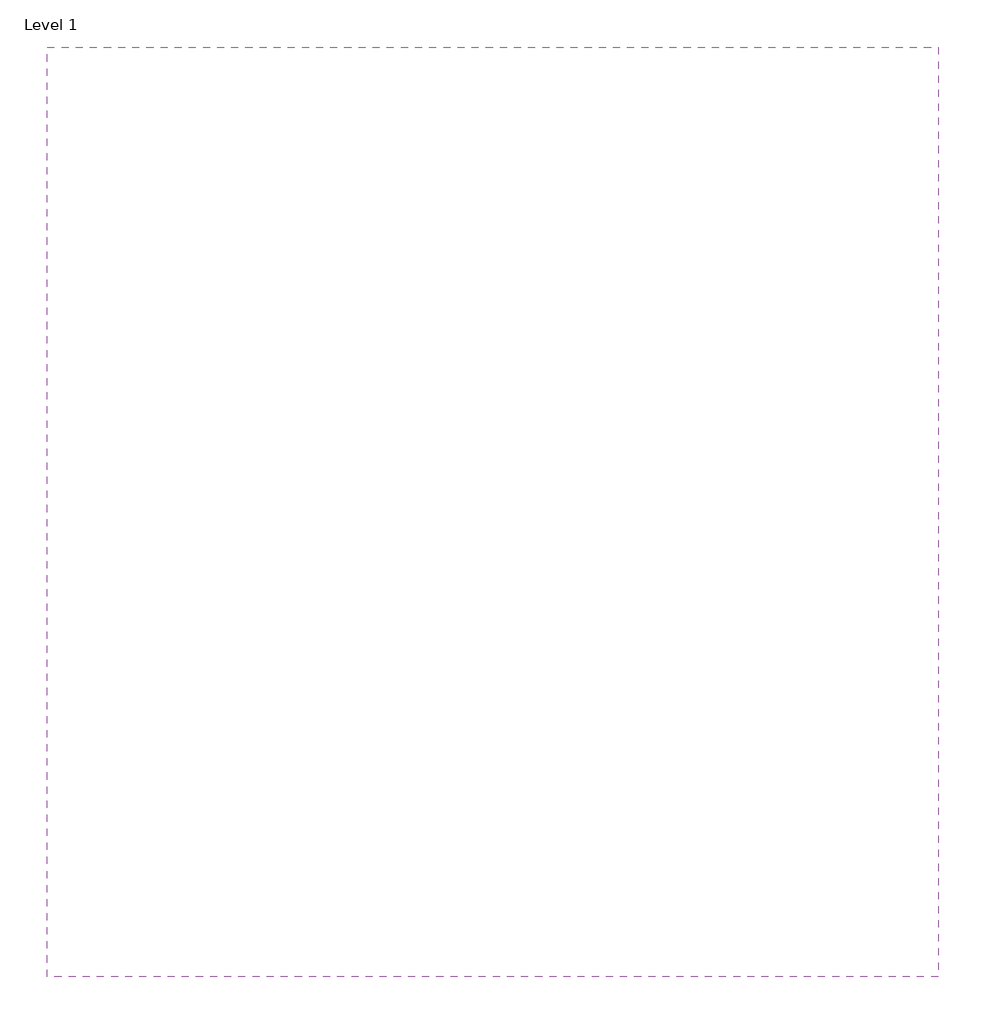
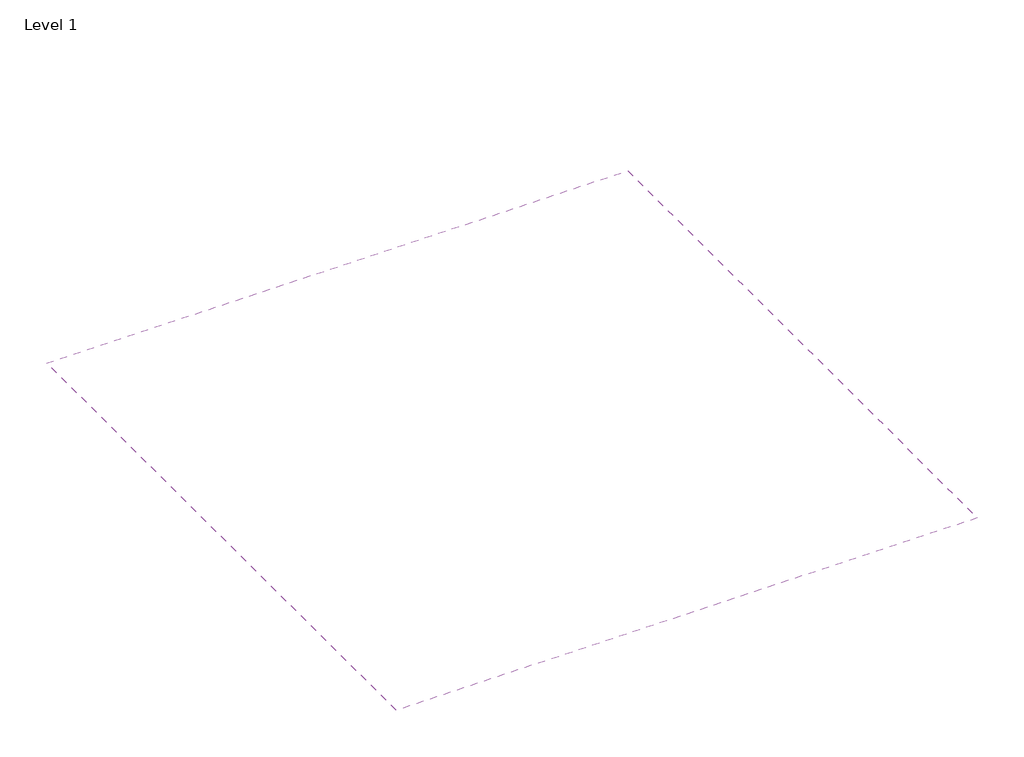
# One storey: 1 covering.
"""IFC4 building model written with IfcOpenShell, lengths in millimetres."""

import ifcopenshell
import ifcopenshell.guid

model = None  # the IFC model being written
_history = None  # IfcOwnerHistory: only IFC2X3 demands one
_inside = {}  # id of a spatial element -> (the spatial element, [elements in it])
_under = {}  # id of a project, library or spatial element -> (it, [spatial elements below it])
_declared = {}  # id of a project -> (the project, [libraries it declares])
_typed = {}  # id of a type object -> (the type object, [elements of that type])
_made_of = {}  # id of a material, layer set ... -> (it, [elements and type objects made of it])


def new_model(schema):
    """Start an empty IFC model of exactly this schema.

    Asked for "IFC4X3", IfcOpenShell would pick the latest addendum, in which some entities
    have other attributes; the version numbers below select the first issue.
    IFC2X3 requires an IfcOwnerHistory on every rooted entity: one is made here for all.
    """
    global model, _history
    if schema == "IFC4X3":
        model = ifcopenshell.file(schema_version=(4, 3, 0, 0))
    else:
        model = ifcopenshell.file(schema=schema)
    _inside.clear()
    _under.clear()
    _declared.clear()
    _typed.clear()
    _made_of.clear()
    _history = None
    if model.schema == "IFC2X3":
        org = make("IfcOrganization", Name="unknown")
        user = make(
            "IfcPersonAndOrganization",
            ThePerson=make("IfcPerson", FamilyName="unknown"),
            TheOrganization=org,
        )
        app = make(
            "IfcApplication",
            ApplicationDeveloper=org,
            Version="unknown",
            ApplicationFullName="unknown",
            ApplicationIdentifier="unknown",
        )
        _history = make(
            "IfcOwnerHistory",
            OwningUser=user,
            OwningApplication=app,
            ChangeAction="ADDED",
            CreationDate=0,
        )
    return model


def make(cls, **values):
    """One entity of the class cls with the attributes given. An attribute that is None is left unset."""
    return model.create_entity(
        cls, **{name: value for name, value in values.items() if value is not None}
    )


def rooted(cls, **values):
    """An entity with a GlobalId (a new one), such as an element, a storey or a relation."""
    return make(cls, GlobalId=ifcopenshell.guid.new(), OwnerHistory=_history, **values)


def si_unit(unit_type, name, prefix=None):
    """IfcSIUnit, for example si_unit("LENGTHUNIT", "METRE", prefix="MILLI")."""
    return make("IfcSIUnit", UnitType=unit_type, Prefix=prefix, Name=name)


def assignment(units):
    """IfcUnitAssignment: the units of a project."""
    return None if units is None else make("IfcUnitAssignment", Units=units)


def point(xyz):
    """IfcCartesianPoint."""
    return None if xyz is None else make("IfcCartesianPoint", Coordinates=xyz)


def direction(xyz):
    """IfcDirection."""
    return None if xyz is None else make("IfcDirection", DirectionRatios=xyz)


def frame(location, z_axis=None, x_axis=None):
    """IfcAxis2Placement3D, a coordinate frame: its origin and axes. An axis left out is left unset."""
    return make(
        "IfcAxis2Placement3D",
        Location=point(location),
        Axis=direction(z_axis),
        RefDirection=direction(x_axis),
    )


def origin():
    """The frame at (0, 0, 0) with its axes left unset."""
    return frame((0.0, 0.0, 0.0))


def place(relative_to, where):
    """IfcLocalPlacement: puts the frame where relative to a parent placement (None: the world)."""
    return make(
        "IfcLocalPlacement", PlacementRelTo=relative_to, RelativePlacement=where
    )


def context(
    kind, dimensions, precision=None, world=None, true_north=None, identifier=None
):
    """IfcGeometricRepresentationContext, for example the 3D "Model" context."""
    return make(
        "IfcGeometricRepresentationContext",
        ContextIdentifier=identifier,
        ContextType=kind,
        CoordinateSpaceDimension=dimensions,
        Precision=precision,
        WorldCoordinateSystem=world,
        TrueNorth=true_north,
    )


def project(units=None, contexts=None):
    """IfcProject with its units and contexts."""
    return rooted(
        "IfcProject",
        Name="project",
        RepresentationContexts=contexts,
        UnitsInContext=assignment(units),
    )


def spatial(cls, under=None, at=None, **own):
    """A site, building, storey or space (cls), placed at a placement, below another one or the project."""
    s = rooted(cls, ObjectPlacement=at, **own)
    if under is not None:
        _under.setdefault(under.id(), (under, []))[1].append(s)
    return s


def polyline(points):
    """IfcPolyline through the points."""
    return make("IfcPolyline", Points=[point(p) for p in points])


def outline(outer, holes=None, kind="AREA"):
    """IfcArbitraryClosedProfileDef: a profile drawn as a closed curve; with holes, ...WithVoids."""
    if holes is None:
        return make("IfcArbitraryClosedProfileDef", ProfileType=kind, OuterCurve=outer)
    return make(
        "IfcArbitraryProfileDefWithVoids",
        ProfileType=kind,
        OuterCurve=outer,
        InnerCurves=holes,
    )


def extrude(swept, where, along, depth):
    """IfcExtrudedAreaSolid: the profile swept, set in the frame where, extruded along a direction by depth."""
    return make(
        "IfcExtrudedAreaSolid",
        SweptArea=swept,
        Position=where,
        ExtrudedDirection=direction(along),
        Depth=depth,
    )


def shape(context_of_items, identifier, shape_type, items):
    """IfcShapeRepresentation: the items that make up one representation, for example the "Body"."""
    return make(
        "IfcShapeRepresentation",
        ContextOfItems=context_of_items,
        RepresentationIdentifier=identifier,
        RepresentationType=shape_type,
        Items=items,
    )


def made_of(thing, what):
    """Note that an element or type object is made of a material, layer set ...; save() writes the relation."""
    if what is not None:
        _made_of.setdefault(what.id(), (what, []))[1].append(thing)
    return thing


def element(
    cls,
    number,
    at=None,
    inside=None,
    cuts=None,
    type_object=None,
    material=None,
    context=None,
    identifier="Body",
    shape_type=None,
    held_by="IfcProductDefinitionShape",
    body=None,
    shapes=None,
    **own,
):
    """One element of the class cls, such as IfcWall. Its Tag is "e" and its number.

    at: its placement. inside: the storey or other place that contains it. cuts: it is an
    opening in that element (IfcRelVoidsElement). A single representation is given by context,
    identifier, shape_type and body (its items); several are given by shapes. held_by: the class
    of the entity that holds the representations. save() writes the other relations.
    """
    e = rooted(cls, Tag="e%d" % number, ObjectPlacement=at, **own)
    if body is not None:
        shapes = [shape(context, identifier, shape_type, body)]
    if shapes is not None:
        e.Representation = make(held_by, Representations=shapes)
    if inside is not None:
        _inside.setdefault(inside.id(), (inside, []))[1].append(e)
    if cuts is not None:
        rooted(
            "IfcRelVoidsElement", RelatingBuildingElement=cuts, RelatedOpeningElement=e
        )
    if type_object is not None:
        _typed.setdefault(type_object.id(), (type_object, []))[1].append(e)
    return made_of(e, material)


def aggregate(whole, parts):
    """IfcRelAggregates: a whole, such as a stair, and the parts it consists of."""
    return rooted("IfcRelAggregates", RelatingObject=whole, RelatedObjects=parts)


def save(model, path):
    """Write the relations noted so far, then the file.

    IfcRelAggregates (storeys below a building ...), IfcRelContainedInSpatialStructure (elements
    in a storey), IfcRelDefinesByType, IfcRelAssociatesMaterial and IfcRelDeclares: one each for
    every whole, place, type object, material and project.
    """
    for whole, parts in _under.values():
        aggregate(whole, parts)
    for where, things in _inside.values():
        rooted(
            "IfcRelContainedInSpatialStructure",
            RelatedElements=things,
            RelatingStructure=where,
        )
    for kind, things in _typed.values():
        rooted("IfcRelDefinesByType", RelatedObjects=things, RelatingType=kind)
    for what, things in _made_of.values():
        rooted("IfcRelAssociatesMaterial", RelatedObjects=things, RelatingMaterial=what)
    for by, libraries in _declared.values():
        rooted("IfcRelDeclares", RelatingContext=by, RelatedDefinitions=libraries)
    model.write(path)


model = new_model("IFC4")

# Units and contexts
model_context = context("Model", 3, world=origin())
ifc_project = project(units=[si_unit("LENGTHUNIT", "METRE", prefix="MILLI")], contexts=[model_context])

# Site, building, storey
site = spatial("IfcSite", under=ifc_project)
building = spatial("IfcBuilding", under=site)
storey = spatial("IfcBuildingStorey", under=building, Name="Level 1", Elevation=0.0)

# Covering
placement = place(None, origin())
element("IfcCovering", 1, ObjectType="Placo Glasroc X", at=placement, inside=storey, context=model_context, shape_type="SweptSolid", body=[
    extrude(outline(polyline([(-5115.2715037, -32842.5460756), (-6055.2715037, -32842.5460756), (-6055.2715037, -31862.5460756), (-5115.2715037, -31862.5460756), (-5115.2715037, -32842.5460756)])), frame((0.0, 0.0, 2600.0), z_axis=(0.0, 0.0, 1.0), x_axis=(1.0, 0.0, 0.0)), (0.0, 0.0, 1.0), 212.5),
])

save(model, "model.ifc")
